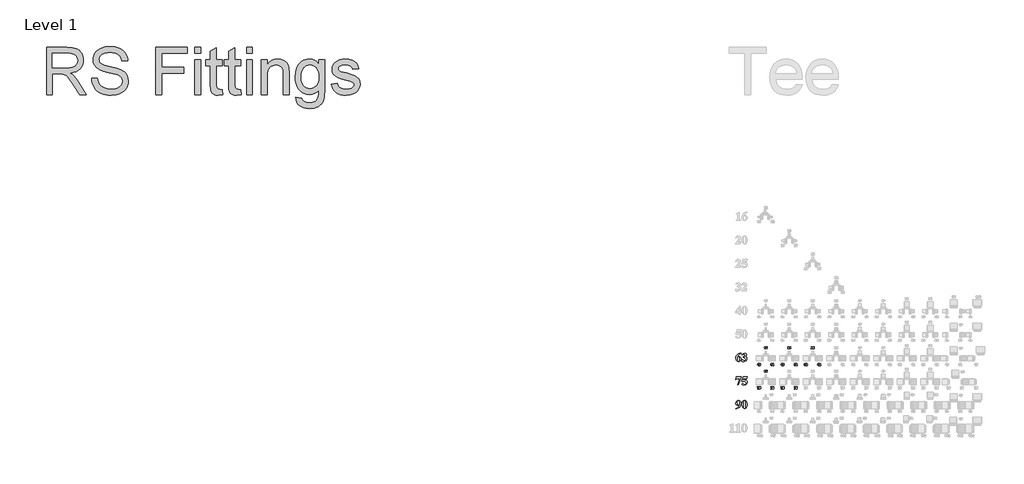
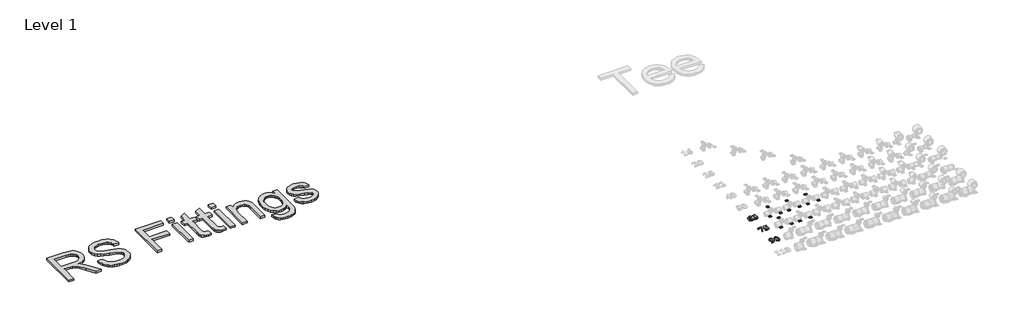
# One storey, part 19 of 57: 18 proxies.
"""IFC4 building model written with IfcOpenShell, lengths in millimetres."""

from ifc_helpers import new_model, si_unit, frame, origin, place, context, project, spatial, polyline, outline, extrude, element, save

model = new_model("IFC4")

# Units and contexts
model_context = context("Model", 3, world=origin())
ifc_project = project(units=[si_unit("LENGTHUNIT", "METRE", prefix="MILLI")], contexts=[model_context])

# Site, building, storey
site = spatial("IfcSite", under=ifc_project)
building = spatial("IfcBuilding", under=site)
storey = spatial("IfcBuildingStorey", under=building, Name="Level 1", Elevation=27.3876384)

# Proxies
placement = place(None, origin())
element("IfcBuildingElementProxy", 1, Name="100mm Arial", ObjectType="100mm Arial", at=placement, inside=storey, context=model_context, shape_type="SweptSolid", body=[
    extrude(outline(polyline([(12951.4898622, 16910.8916255), (12951.4898622, 16909.1466992), (12929.4738, 16900.0676296), (12916.3595883, 16886.5717153), (12908.9027549, 16866.91403), (12914.4647074, 16869.4496261), (12924.4435047, 16870.7583208), (12935.0664251, 16868.7032611), (12943.760384, 16862.5380821), (12949.5574926, 16852.8285215), (12951.4898622, 16840.1403172), (12947.2502366, 16821.8458556), (12935.2266039, 16808.9906565), (12918.5816429, 16804.4511217), (12900.7779418, 16809.6313716), (12888.0181683, 16824.804051), (12883.4377368, 16846.520204), (12885.5405093, 16863.1481247), (12891.8488268, 16878.5150634), (12902.0252915, 16891.7519652), (12915.7325054, 16901.989775), (12932.4081389, 16908.5843694), (12951.4898622, 16910.8916255)]), holes=[polyline([(12907.8667049, 16861.2975485), (12906.1217786, 16846.1112369), (12908.3165687, 16826.0582168), (12914.3283851, 16812.4668768), (12920.7900652, 16809.6859006), (12927.5652869, 16813.7074104), (12930.5507467, 16830.0524621), (12929.2284197, 16847.5698862), (12925.2614389, 16858.6801591), (12916.0733114, 16863.7786156), (12907.8667049, 16861.2975485)])]), frame((0.0, 0.0, 27.3876384), z_axis=(0.0, 0.0, 1.0), x_axis=(1.0, 0.0, 0.0)), (0.0, 0.0, 1.0), 2.0),
    extrude(outline(polyline([(12977.6637566, 16862.0336893), (12977.6637566, 16863.7786156), (12990.0963564, 16868.5907951), (12996.0809083, 16875.379649), (12998.6028721, 16884.6359377), (12993.8997504, 16895.773475), (12982.1896591, 16900.4220677), (12972.1290685, 16897.9887135), (12963.7043462, 16890.6886508), (12961.9594199, 16891.6974363), (12976.3686941, 16906.0794459), (12995.9582182, 16910.8916255), (13006.0085846, 16909.4397923), (13014.1299896, 16905.0842927), (13019.4976828, 16898.7861993), (13021.2869139, 16891.506585), (13017.2790363, 16881.7322713), (13004.7101141, 16873.4575036), (13020.9324757, 16862.1700117), (13025.1243885, 16854.6109365), (13026.5216927, 16845.3478316), (13023.5294168, 16829.585558), (13014.552589, 16816.3793288), (13000.5522819, 16807.4331734), (12982.4895683, 16804.4511217), (12970.8885349, 16805.7325519), (12962.9136765, 16809.5768427), (12958.4695674, 16818.8740281), (12961.0460601, 16825.9491589), (12967.0033475, 16828.8800898), (12971.8564237, 16827.7895108), (12980.7173776, 16821.0551859), (12995.0039616, 16814.9206794), (13004.9282299, 16819.3784208), (13009.0724298, 16830.679545), (13007.0718991, 16840.6890148), (13001.0703069, 16849.8873665), (12991.2176079, 16857.3203435), (12977.6637566, 16862.0336893)])), frame((0.0, 0.0, 27.3876384), z_axis=(0.0, 0.0, 1.0), x_axis=(1.0, 0.0, 0.0)), (0.0, 0.0, 1.0), 2.0),
])
element("IfcBuildingElementProxy", 2, Name="100mm Arial", ObjectType="100mm Arial", at=placement, inside=storey, context=model_context, shape_type="SweptSolid", body=[
    extrude(outline(polyline([(12906.0945141, 16506.196048), (12934.5040953, 16588.2075837), (12912.8561035, 16588.2075837), (12893.7437077, 16584.8540535), (12886.3550354, 16575.9930996), (12883.4377368, 16575.9930996), (12890.935467, 16609.1466992), (12952.7167635, 16609.1466992), (12916.2914271, 16506.196048), (12906.0945141, 16506.196048)])), frame((0.0, 0.0, 27.3876384), z_axis=(0.0, 0.0, 1.0), x_axis=(1.0, 0.0, 0.0)), (0.0, 0.0, 1.0), 2.0),
    extrude(outline(polyline([(12981.1536091, 16609.1466992), (13030.0115453, 16609.1466992), (13023.0318402, 16588.2075837), (12978.7543355, 16588.2075837), (12975.5643921, 16579.4829522), (12999.8570378, 16575.7068227), (13017.8243258, 16566.3414761), (13026.9647404, 16555.0880647), (13030.0115453, 16541.394483), (13024.3132704, 16522.6910543), (13008.5953015, 16509.0042887), (12986.6065038, 16504.4511217), (12966.7852317, 16509.249669), (12961.9594199, 16516.9655149), (12964.4813837, 16522.8410089), (12970.3568777, 16525.3902372), (12976.4913842, 16524.0815425), (12987.1245288, 16517.1836307), (12995.3038708, 16512.4123479), (13000.729501, 16511.4308268), (13011.5807614, 16515.9976261), (13016.052135, 16526.9715766), (13012.6577081, 16539.0088416), (13002.4744273, 16548.5650395), (12987.1177127, 16554.8017878), (12968.2029843, 16556.8807039), (12961.9594199, 16556.7989104), (12981.1536091, 16609.1466992)])), frame((0.0, 0.0, 27.3876384), z_axis=(0.0, 0.0, 1.0), x_axis=(1.0, 0.0, 0.0)), (0.0, 0.0, 1.0), 2.0),
])
element("IfcBuildingElementProxy", 3, Name="100mm Arial", ObjectType="100mm Arial", at=placement, inside=storey, context=model_context, shape_type="SweptSolid", body=[
    extrude(outline(polyline([(12883.4377368, 16204.4511217), (12883.4377368, 16206.196048), (12905.6310181, 16214.8116215), (12920.0675567, 16228.9073542), (12927.5243901, 16248.2378658), (12919.1678291, 16245.3887284), (12911.9018469, 16244.5844264), (12900.7097806, 16246.6394861), (12891.5625498, 16252.8046651), (12885.4689401, 16262.5483062), (12883.4377368, 16275.3387523), (12887.7046269, 16293.524156), (12899.8918464, 16306.3384584), (12916.3459561, 16310.8916255), (12933.6588966, 16305.7659045), (12946.6504182, 16290.9203988), (12951.4898622, 16268.7407497), (12949.5268201, 16252.9614358), (12943.6376939, 16237.8501015), (12933.8599721, 16224.5348143), (12920.2311435, 16214.1436419), (12903.2556008, 16207.2559544), (12883.4377368, 16204.4511217)]), holes=[polyline([(12928.8058204, 16253.9634052), (12928.8058204, 16268.7952787), (12925.3159678, 16294.3420902), (12919.454106, 16303.9937137), (12914.0557403, 16305.6568466), (12907.5940601, 16302.4123743), (12904.3768523, 16285.4538719), (12905.7877888, 16267.834206), (12910.0205983, 16256.6898525), (12919.972131, 16251.5641316), (12928.8058204, 16253.9634052)])]), frame((0.0, 0.0, 27.3876384), z_axis=(0.0, 0.0, 1.0), x_axis=(1.0, 0.0, 0.0)), (0.0, 0.0, 1.0), 2.0),
    extrude(outline(polyline([(13030.0115453, 16257.6713736), (13025.5674362, 16229.0982056), (13018.4514086, 16215.7658781), (13008.3090246, 16207.5047427), (12995.9582182, 16204.4511217), (12982.1760269, 16208.213619), (12971.2838698, 16219.0103504), (12965.3129502, 16232.6425871), (12961.9594199, 16256.4717368), (12966.7852317, 16287.0624758), (12971.7746303, 16297.2491647), (12978.8361289, 16304.7434868), (12995.9582182, 16310.8916255), (13013.0939396, 16304.8252802), (13024.8040309, 16288.5074929), (13030.0115453, 16257.6713736)]), holes=[polyline([(13007.3275035, 16257.6713736), (13006.9730654, 16289.0255179), (13002.8561299, 16303.2303085), (12995.9036892, 16305.6568466), (12990.0690919, 16303.8301269), (12985.7613051, 16294.505677), (12984.6434617, 16247.8561632), (12986.3611236, 16218.6831767), (12990.0554597, 16211.498988), (12996.4217142, 16209.6859006), (13002.8561299, 16212.1124387), (13006.9730654, 16225.1721214), (13007.3275035, 16257.6713736)])]), frame((0.0, 0.0, 27.3876384), z_axis=(0.0, 0.0, 1.0), x_axis=(1.0, 0.0, 0.0)), (0.0, 0.0, 1.0), 2.0),
])
element("IfcBuildingElementProxy", 4, Name="30mm Arial", ObjectType="30mm Arial", at=placement, inside=storey, context=model_context, shape_type="SweptSolid", body=[
    extrude(outline(polyline([(13177.5429, 16775.0640351), (13171.7128463, 16774.4415554), (13170.680441, 16777.0111819), (13168.5093532, 16777.84242), (13165.5184142, 16776.2292867), (13163.9773974, 16769.4541266), (13169.3064309, 16772.0123663), (13175.4667025, 16769.2795286), (13178.0287378, 16762.2272892), (13175.4097684, 16754.8676055), (13168.67636, 16752.0930161), (13161.4343401, 16755.67607), (13158.5952254, 16767.4196808), (13161.5595952, 16779.4897138), (13169.2608836, 16783.1866359), (13174.764515, 16781.1066428), (13177.5429, 16775.0640351)]), holes=[polyline([(13164.4252792, 16762.3563398), (13165.685421, 16758.7163519), (13168.5624918, 16757.437232), (13171.1586876, 16758.4848198), (13172.1986841, 16761.9236405), (13171.0789798, 16765.5256724), (13168.2816168, 16766.6681504), (13165.5449835, 16765.5750153), (13164.4252792, 16762.3563398)])]), frame((0.0, 0.0, 27.3876384), z_axis=(0.0, 0.0, 1.0), x_axis=(1.0, 0.0, 0.0)), (0.0, 0.0, 1.0), 2.0),
    extrude(outline(polyline([(13181.9154403, 16761.1341541), (13187.745494, 16761.8097723), (13189.0587743, 16758.560732), (13191.6473789, 16757.437232), (13194.4029903, 16758.7239431), (13195.518899, 16762.1893331), (13194.4978804, 16765.4611471), (13192.0041661, 16766.6681504), (13189.6888453, 16766.2354511), (13190.1974567, 16771.0406907), (13193.0707319, 16771.9971839), (13194.0613855, 16774.6996567), (13193.321242, 16776.9884083), (13191.3513215, 16777.84242), (13189.275124, 16776.8517664), (13188.2313318, 16773.9557175), (13182.4012781, 16774.8287074), (13184.0068202, 16779.4631446), (13187.0053505, 16782.1921867), (13191.3133654, 16783.1866359), (13197.8569934, 16780.4310246), (13199.8914393, 16775.3297276), (13195.5264902, 16768.8999678), (13199.7623886, 16766.3986622), (13201.3489527, 16761.7034953), (13198.5364072, 16754.9055616), (13191.5335107, 16752.0930161), (13184.948131, 16754.5943217), (13181.9154403, 16761.1341541)])), frame((0.0, 0.0, 27.3876384), z_axis=(0.0, 0.0, 1.0), x_axis=(1.0, 0.0, 0.0)), (0.0, 0.0, 1.0), 2.0),
])
element("IfcBuildingElementProxy", 5, Name="30mm Arial", ObjectType="30mm Arial", at=placement, inside=storey, context=model_context, shape_type="SweptSolid", body=[
    extrude(outline(polyline([(13346.2929, 16775.0640351), (13340.4628463, 16774.4415554), (13339.430441, 16777.0111819), (13337.2593532, 16777.84242), (13334.2684142, 16776.2292867), (13332.7273974, 16769.4541266), (13338.0564309, 16772.0123663), (13344.2167025, 16769.2795286), (13346.7787378, 16762.2272892), (13344.1597684, 16754.8676055), (13337.42636, 16752.0930161), (13330.1843401, 16755.67607), (13327.3452254, 16767.4196808), (13330.3095952, 16779.4897138), (13338.0108836, 16783.1866359), (13343.514515, 16781.1066428), (13346.2929, 16775.0640351)]), holes=[polyline([(13333.1752792, 16762.3563398), (13334.435421, 16758.7163519), (13337.3124918, 16757.437232), (13339.9086876, 16758.4848198), (13340.9486841, 16761.9236405), (13339.8289798, 16765.5256724), (13337.0316168, 16766.6681504), (13334.2949835, 16765.5750153), (13333.1752792, 16762.3563398)])]), frame((0.0, 0.0, 27.3876384), z_axis=(0.0, 0.0, 1.0), x_axis=(1.0, 0.0, 0.0)), (0.0, 0.0, 1.0), 2.0),
    extrude(outline(polyline([(13350.6654403, 16761.1341541), (13356.495494, 16761.8097723), (13357.8087743, 16758.560732), (13360.3973789, 16757.437232), (13363.1529903, 16758.7239431), (13364.268899, 16762.1893331), (13363.2478804, 16765.4611471), (13360.7541661, 16766.6681504), (13358.4388453, 16766.2354511), (13358.9474567, 16771.0406907), (13361.8207319, 16771.9971839), (13362.8113855, 16774.6996567), (13362.071242, 16776.9884083), (13360.1013215, 16777.84242), (13358.025124, 16776.8517664), (13356.9813318, 16773.9557175), (13351.1512781, 16774.8287074), (13352.7568202, 16779.4631446), (13355.7553505, 16782.1921867), (13360.0633654, 16783.1866359), (13366.6069934, 16780.4310246), (13368.6414393, 16775.3297276), (13364.2764902, 16768.8999678), (13368.5123886, 16766.3986622), (13370.0989527, 16761.7034953), (13367.2864072, 16754.9055616), (13360.2835107, 16752.0930161), (13353.698131, 16754.5943217), (13350.6654403, 16761.1341541)])), frame((0.0, 0.0, 27.3876384), z_axis=(0.0, 0.0, 1.0), x_axis=(1.0, 0.0, 0.0)), (0.0, 0.0, 1.0), 2.0),
])
element("IfcBuildingElementProxy", 6, Name="30mm Arial", ObjectType="30mm Arial", at=placement, inside=storey, context=model_context, shape_type="SweptSolid", body=[
    extrude(outline(polyline([(13260.0985445, 16966.3974945), (13254.2684908, 16966.3974945), (13254.2684908, 16988.2753784), (13246.9809237, 16983.4018178), (13246.9809237, 16989.2318715), (13251.846893, 16992.0899643), (13255.4527205, 16997.0052765), (13260.0985445, 16997.0052765), (13260.0985445, 16966.3974945)])), frame((0.0, 0.0, 27.3876384), z_axis=(0.0, 0.0, 1.0), x_axis=(1.0, 0.0, 0.0)), (0.0, 0.0, 1.0), 2.0),
    extrude(outline(polyline([(13287.7912997, 16988.8826756), (13281.961246, 16988.2601959), (13280.9288406, 16990.8298225), (13278.7577529, 16991.6610606), (13275.7668139, 16990.0479272), (13274.2257971, 16983.2727672), (13279.5548306, 16985.8310069), (13285.7151022, 16983.0981692), (13288.2771375, 16976.0459297), (13285.658168, 16968.686246), (13278.9247597, 16965.9116567), (13271.6827398, 16969.4947105), (13268.8436251, 16981.2383213), (13271.8079949, 16993.3083544), (13279.5092833, 16997.0052765), (13285.0129147, 16994.9252834), (13287.7912997, 16988.8826756)]), holes=[polyline([(13274.6736788, 16976.1749804), (13275.9338206, 16972.5349924), (13278.8108914, 16971.2558726), (13281.4070872, 16972.3034604), (13282.4470838, 16975.7422811), (13281.3273794, 16979.344313), (13278.5300164, 16980.486791), (13275.7933831, 16979.3936559), (13274.6736788, 16976.1749804)])]), frame((0.0, 0.0, 27.3876384), z_axis=(0.0, 0.0, 1.0), x_axis=(1.0, 0.0, 0.0)), (0.0, 0.0, 1.0), 2.0),
])
element("IfcBuildingElementProxy", 7, Name="30mm Arial", ObjectType="30mm Arial", at=placement, inside=storey, context=model_context, shape_type="SweptSolid", body=[
    extrude(outline(polyline([(13477.5429, 16775.0640351), (13471.7128463, 16774.4415554), (13470.680441, 16777.0111819), (13468.5093532, 16777.84242), (13465.5184142, 16776.2292867), (13463.9773974, 16769.4541266), (13469.3064309, 16772.0123663), (13475.4667025, 16769.2795286), (13478.0287378, 16762.2272892), (13475.4097684, 16754.8676055), (13468.67636, 16752.0930161), (13461.4343401, 16755.67607), (13458.5952254, 16767.4196808), (13461.5595952, 16779.4897138), (13469.2608836, 16783.1866359), (13474.764515, 16781.1066428), (13477.5429, 16775.0640351)]), holes=[polyline([(13464.4252792, 16762.3563398), (13465.685421, 16758.7163519), (13468.5624918, 16757.437232), (13471.1586876, 16758.4848198), (13472.1986841, 16761.9236405), (13471.0789798, 16765.5256724), (13468.2816168, 16766.6681504), (13465.5449835, 16765.5750153), (13464.4252792, 16762.3563398)])]), frame((0.0, 0.0, 27.3876384), z_axis=(0.0, 0.0, 1.0), x_axis=(1.0, 0.0, 0.0)), (0.0, 0.0, 1.0), 2.0),
    extrude(outline(polyline([(13481.9154403, 16761.1341541), (13487.745494, 16761.8097723), (13489.0587743, 16758.560732), (13491.6473789, 16757.437232), (13494.4029903, 16758.7239431), (13495.518899, 16762.1893331), (13494.4978804, 16765.4611471), (13492.0041661, 16766.6681504), (13489.6888453, 16766.2354511), (13490.1974567, 16771.0406907), (13493.0707319, 16771.9971839), (13494.0613855, 16774.6996567), (13493.321242, 16776.9884083), (13491.3513215, 16777.84242), (13489.275124, 16776.8517664), (13488.2313318, 16773.9557175), (13482.4012781, 16774.8287074), (13484.0068202, 16779.4631446), (13487.0053505, 16782.1921867), (13491.3133654, 16783.1866359), (13497.8569934, 16780.4310246), (13499.8914393, 16775.3297276), (13495.5264902, 16768.8999678), (13499.7623886, 16766.3986622), (13501.3489527, 16761.7034953), (13498.5364072, 16754.9055616), (13491.5335107, 16752.0930161), (13484.948131, 16754.5943217), (13481.9154403, 16761.1341541)])), frame((0.0, 0.0, 27.3876384), z_axis=(0.0, 0.0, 1.0), x_axis=(1.0, 0.0, 0.0)), (0.0, 0.0, 1.0), 2.0),
])
element("IfcBuildingElementProxy", 8, Name="30mm Arial", ObjectType="30mm Arial", at=placement, inside=storey, context=model_context, shape_type="SweptSolid", body=[
    extrude(outline(polyline([(13646.2929, 16775.0640351), (13640.4628463, 16774.4415554), (13639.430441, 16777.0111819), (13637.2593532, 16777.84242), (13634.2684142, 16776.2292867), (13632.7273974, 16769.4541266), (13638.0564309, 16772.0123663), (13644.2167025, 16769.2795286), (13646.7787378, 16762.2272892), (13644.1597684, 16754.8676055), (13637.42636, 16752.0930161), (13630.1843401, 16755.67607), (13627.3452254, 16767.4196808), (13630.3095952, 16779.4897138), (13638.0108836, 16783.1866359), (13643.514515, 16781.1066428), (13646.2929, 16775.0640351)]), holes=[polyline([(13633.1752792, 16762.3563398), (13634.435421, 16758.7163519), (13637.3124918, 16757.437232), (13639.9086876, 16758.4848198), (13640.9486841, 16761.9236405), (13639.8289798, 16765.5256724), (13637.0316168, 16766.6681504), (13634.2949835, 16765.5750153), (13633.1752792, 16762.3563398)])]), frame((0.0, 0.0, 27.3876384), z_axis=(0.0, 0.0, 1.0), x_axis=(1.0, 0.0, 0.0)), (0.0, 0.0, 1.0), 2.0),
    extrude(outline(polyline([(13650.6654403, 16761.1341541), (13656.495494, 16761.8097723), (13657.8087743, 16758.560732), (13660.3973789, 16757.437232), (13663.1529903, 16758.7239431), (13664.268899, 16762.1893331), (13663.2478804, 16765.4611471), (13660.7541661, 16766.6681504), (13658.4388453, 16766.2354511), (13658.9474567, 16771.0406907), (13661.8207319, 16771.9971839), (13662.8113855, 16774.6996567), (13662.071242, 16776.9884083), (13660.1013215, 16777.84242), (13658.025124, 16776.8517664), (13656.9813318, 16773.9557175), (13651.1512781, 16774.8287074), (13652.7568202, 16779.4631446), (13655.7553505, 16782.1921867), (13660.0633654, 16783.1866359), (13666.6069934, 16780.4310246), (13668.6414393, 16775.3297276), (13664.2764902, 16768.8999678), (13668.5123886, 16766.3986622), (13670.0989527, 16761.7034953), (13667.2864072, 16754.9055616), (13660.2835107, 16752.0930161), (13653.698131, 16754.5943217), (13650.6654403, 16761.1341541)])), frame((0.0, 0.0, 27.3876384), z_axis=(0.0, 0.0, 1.0), x_axis=(1.0, 0.0, 0.0)), (0.0, 0.0, 1.0), 2.0),
])
element("IfcBuildingElementProxy", 9, Name="30mm Arial", ObjectType="30mm Arial", at=placement, inside=storey, context=model_context, shape_type="SweptSolid", body=[
    extrude(outline(polyline([(13564.9569226, 16972.2275482), (13564.9569226, 16966.3974945), (13545.5234103, 16966.3974945), (13547.3832581, 16972.1174756), (13553.4941868, 16979.2873789), (13558.003369, 16984.1761218), (13559.1268689, 16987.6832635), (13558.1817626, 16990.6324508), (13555.5741799, 16991.6610606), (13552.9628017, 16990.6476333), (13551.8393018, 16987.2885203), (13546.0092481, 16987.8199054), (13549.136829, 16994.8683493), (13555.7032306, 16997.0052765), (13562.4897775, 16994.6102479), (13564.9569226, 16988.6549391), (13564.2813044, 16984.7986015), (13562.1405816, 16980.9650376), (13558.515776, 16977.1390648), (13555.1870279, 16973.8217035), (13554.0938929, 16972.2275482), (13564.9569226, 16972.2275482)])), frame((0.0, 0.0, 27.3876384), z_axis=(0.0, 0.0, 1.0), x_axis=(1.0, 0.0, 0.0)), (0.0, 0.0, 1.0), 2.0),
    extrude(outline(polyline([(13578.5603813, 16997.0052765), (13585.3545194, 16993.8473307), (13588.2771375, 16981.4508754), (13585.339337, 16969.0240552), (13578.5603813, 16965.9116567), (13571.5195287, 16969.3277038), (13568.8436251, 16981.5116051), (13571.7814256, 16993.892878), (13578.5603813, 16997.0052765)]), holes=[polyline([(13578.5603813, 16991.6610606), (13576.6170301, 16991.0196029), (13575.2961585, 16988.7156689), (13574.6736788, 16981.4508754), (13575.2278376, 16974.4327964), (13576.6284169, 16971.8897391), (13578.5603813, 16971.2558726), (13580.5037325, 16971.8973303), (13581.8246041, 16974.2012643), (13582.4470838, 16981.4508754), (13581.892925, 16988.4651587), (13580.4923457, 16991.0196029), (13578.5603813, 16991.6610606)])]), frame((0.0, 0.0, 27.3876384), z_axis=(0.0, 0.0, 1.0), x_axis=(1.0, 0.0, 0.0)), (0.0, 0.0, 1.0), 2.0),
])
element("IfcBuildingElementProxy", 10, Name="30mm Arial", ObjectType="30mm Arial", at=placement, inside=storey, context=model_context, shape_type="SweptSolid", body=[
    extrude(outline(polyline([(13775.5429, 16775.0640351), (13769.7128463, 16774.4415554), (13768.680441, 16777.0111819), (13766.5093532, 16777.84242), (13763.5184142, 16776.2292867), (13761.9773974, 16769.4541266), (13767.3064309, 16772.0123663), (13773.4667025, 16769.2795286), (13776.0287378, 16762.2272892), (13773.4097684, 16754.8676055), (13766.67636, 16752.0930161), (13759.4343401, 16755.67607), (13756.5952254, 16767.4196808), (13759.5595952, 16779.4897138), (13767.2608836, 16783.1866359), (13772.764515, 16781.1066428), (13775.5429, 16775.0640351)]), holes=[polyline([(13762.4252792, 16762.3563398), (13763.685421, 16758.7163519), (13766.5624918, 16757.437232), (13769.1586876, 16758.4848198), (13770.1986841, 16761.9236405), (13769.0789798, 16765.5256724), (13766.2816168, 16766.6681504), (13763.5449835, 16765.5750153), (13762.4252792, 16762.3563398)])]), frame((0.0, 0.0, 27.3876384), z_axis=(0.0, 0.0, 1.0), x_axis=(1.0, 0.0, 0.0)), (0.0, 0.0, 1.0), 2.0),
    extrude(outline(polyline([(13779.9154403, 16761.1341541), (13785.745494, 16761.8097723), (13787.0587743, 16758.560732), (13789.6473789, 16757.437232), (13792.4029903, 16758.7239431), (13793.518899, 16762.1893331), (13792.4978804, 16765.4611471), (13790.0041661, 16766.6681504), (13787.6888453, 16766.2354511), (13788.1974567, 16771.0406907), (13791.0707319, 16771.9971839), (13792.0613855, 16774.6996567), (13791.321242, 16776.9884083), (13789.3513215, 16777.84242), (13787.275124, 16776.8517664), (13786.2313318, 16773.9557175), (13780.4012781, 16774.8287074), (13782.0068202, 16779.4631446), (13785.0053505, 16782.1921867), (13789.3133654, 16783.1866359), (13795.8569934, 16780.4310246), (13797.8914393, 16775.3297276), (13793.5264902, 16768.8999678), (13797.7623886, 16766.3986622), (13799.3489527, 16761.7034953), (13796.5364072, 16754.9055616), (13789.5335107, 16752.0930161), (13782.948131, 16754.5943217), (13779.9154403, 16761.1341541)])), frame((0.0, 0.0, 27.3876384), z_axis=(0.0, 0.0, 1.0), x_axis=(1.0, 0.0, 0.0)), (0.0, 0.0, 1.0), 2.0),
])
element("IfcBuildingElementProxy", 11, Name="30mm Arial", ObjectType="30mm Arial", at=placement, inside=storey, context=model_context, shape_type="SweptSolid", body=[
    extrude(outline(polyline([(13944.2929, 16775.0640351), (13938.4628463, 16774.4415554), (13937.430441, 16777.0111819), (13935.2593532, 16777.84242), (13932.2684142, 16776.2292867), (13930.7273974, 16769.4541266), (13936.0564309, 16772.0123663), (13942.2167025, 16769.2795286), (13944.7787378, 16762.2272892), (13942.1597684, 16754.8676055), (13935.42636, 16752.0930161), (13928.1843401, 16755.67607), (13925.3452254, 16767.4196808), (13928.3095952, 16779.4897138), (13936.0108836, 16783.1866359), (13941.514515, 16781.1066428), (13944.2929, 16775.0640351)]), holes=[polyline([(13931.1752792, 16762.3563398), (13932.435421, 16758.7163519), (13935.3124918, 16757.437232), (13937.9086876, 16758.4848198), (13938.9486841, 16761.9236405), (13937.8289798, 16765.5256724), (13935.0316168, 16766.6681504), (13932.2949835, 16765.5750153), (13931.1752792, 16762.3563398)])]), frame((0.0, 0.0, 27.3876384), z_axis=(0.0, 0.0, 1.0), x_axis=(1.0, 0.0, 0.0)), (0.0, 0.0, 1.0), 2.0),
    extrude(outline(polyline([(13948.6654403, 16761.1341541), (13954.495494, 16761.8097723), (13955.8087743, 16758.560732), (13958.3973789, 16757.437232), (13961.1529903, 16758.7239431), (13962.268899, 16762.1893331), (13961.2478804, 16765.4611471), (13958.7541661, 16766.6681504), (13956.4388453, 16766.2354511), (13956.9474567, 16771.0406907), (13959.8207319, 16771.9971839), (13960.8113855, 16774.6996567), (13960.071242, 16776.9884083), (13958.1013215, 16777.84242), (13956.025124, 16776.8517664), (13954.9813318, 16773.9557175), (13949.1512781, 16774.8287074), (13950.7568202, 16779.4631446), (13953.7553505, 16782.1921867), (13958.0633654, 16783.1866359), (13964.6069934, 16780.4310246), (13966.6414393, 16775.3297276), (13962.2764902, 16768.8999678), (13966.5123886, 16766.3986622), (13968.0989527, 16761.7034953), (13965.2864072, 16754.9055616), (13958.2835107, 16752.0930161), (13951.698131, 16754.5943217), (13948.6654403, 16761.1341541)])), frame((0.0, 0.0, 27.3876384), z_axis=(0.0, 0.0, 1.0), x_axis=(1.0, 0.0, 0.0)), (0.0, 0.0, 1.0), 2.0),
])
element("IfcBuildingElementProxy", 12, Name="30mm Arial", ObjectType="30mm Arial", at=placement, inside=storey, context=model_context, shape_type="SweptSolid", body=[
    extrude(outline(polyline([(13862.9569226, 16972.2275482), (13862.9569226, 16966.3974945), (13843.5234103, 16966.3974945), (13845.3832581, 16972.1174756), (13851.4941868, 16979.2873789), (13856.003369, 16984.1761218), (13857.1268689, 16987.6832635), (13856.1817626, 16990.6324508), (13853.5741799, 16991.6610606), (13850.9628017, 16990.6476333), (13849.8393018, 16987.2885203), (13844.0092481, 16987.8199054), (13847.136829, 16994.8683493), (13853.7032306, 16997.0052765), (13860.4897775, 16994.6102479), (13862.9569226, 16988.6549391), (13862.2813044, 16984.7986015), (13860.1405816, 16980.9650376), (13856.515776, 16977.1390648), (13853.1870279, 16973.8217035), (13852.0938929, 16972.2275482), (13862.9569226, 16972.2275482)])), frame((0.0, 0.0, 27.3876384), z_axis=(0.0, 0.0, 1.0), x_axis=(1.0, 0.0, 0.0)), (0.0, 0.0, 1.0), 2.0),
    extrude(outline(polyline([(13866.8436251, 16975.0135244), (13872.187841, 16975.6284129), (13873.6757193, 16972.432511), (13876.5300164, 16971.2558726), (13879.6538017, 16972.5046276), (13880.9329216, 16976.266075), (13879.7448963, 16979.7959903), (13876.6514759, 16980.9726288), (13872.3852126, 16978.5434397), (13867.3294629, 16979.2949701), (13870.7303276, 16996.5194387), (13885.3054619, 16996.5194387), (13885.3054619, 16990.689385), (13875.4444726, 16990.689385), (13874.2678341, 16985.1250238), (13878.0254859, 16986.3168447), (13884.219918, 16983.5574377), (13886.7629753, 16976.3951257), (13884.6450261, 16969.8439065), (13876.621111, 16965.9116567), (13869.9370455, 16968.3788018), (13866.8436251, 16975.0135244)])), frame((0.0, 0.0, 27.3876384), z_axis=(0.0, 0.0, 1.0), x_axis=(1.0, 0.0, 0.0)), (0.0, 0.0, 1.0), 2.0),
])
element("IfcBuildingElementProxy", 13, Name="30mm Arial", ObjectType="30mm Arial", at=placement, inside=storey, context=model_context, shape_type="SweptSolid", body=[
    extrude(outline(polyline([(13158.5952254, 16476.8707444), (13158.5952254, 16482.7007981), (13178.0287378, 16482.7007981), (13178.0287378, 16478.3282578), (13173.022331, 16471.3595218), (13169.1394242, 16461.7110865), (13167.8261438, 16452.5788539), (13161.9960901, 16452.5788539), (13164.6568112, 16465.2903447), (13171.3636504, 16476.8707444), (13158.5952254, 16476.8707444)])), frame((0.0, 0.0, 27.3876384), z_axis=(0.0, 0.0, 1.0), x_axis=(1.0, 0.0, 0.0)), (0.0, 0.0, 1.0), 2.0),
    extrude(outline(polyline([(13181.9154403, 16461.1948838), (13187.2596562, 16461.8097723), (13188.7475345, 16458.6138705), (13191.6018316, 16457.437232), (13194.7256169, 16458.685987), (13196.0047368, 16462.4474344), (13194.8167115, 16465.9773498), (13191.7232911, 16467.1539882), (13187.4570278, 16464.7247992), (13182.4012781, 16465.4763295), (13185.8021428, 16482.7007981), (13200.3772771, 16482.7007981), (13200.3772771, 16476.8707444), (13190.5162878, 16476.8707444), (13189.3396493, 16471.3063832), (13193.0973011, 16472.4982041), (13199.2917332, 16469.7387972), (13201.8347905, 16462.5764851), (13199.7168413, 16456.0252659), (13191.6929262, 16452.0930161), (13185.0088607, 16454.5601612), (13181.9154403, 16461.1948838)])), frame((0.0, 0.0, 27.3876384), z_axis=(0.0, 0.0, 1.0), x_axis=(1.0, 0.0, 0.0)), (0.0, 0.0, 1.0), 2.0),
])
element("IfcBuildingElementProxy", 14, Name="30mm Arial", ObjectType="30mm Arial", at=placement, inside=storey, context=model_context, shape_type="SweptSolid", body=[
    extrude(outline(polyline([(13327.3452254, 16476.8707444), (13327.3452254, 16482.7007981), (13346.7787378, 16482.7007981), (13346.7787378, 16478.3282578), (13341.772331, 16471.3595218), (13337.8894242, 16461.7110865), (13336.5761438, 16452.5788539), (13330.7460901, 16452.5788539), (13333.4068112, 16465.2903447), (13340.1136504, 16476.8707444), (13327.3452254, 16476.8707444)])), frame((0.0, 0.0, 27.3876384), z_axis=(0.0, 0.0, 1.0), x_axis=(1.0, 0.0, 0.0)), (0.0, 0.0, 1.0), 2.0),
    extrude(outline(polyline([(13350.6654403, 16461.1948838), (13356.0096562, 16461.8097723), (13357.4975345, 16458.6138705), (13360.3518316, 16457.437232), (13363.4756169, 16458.685987), (13364.7547368, 16462.4474344), (13363.5667115, 16465.9773498), (13360.4732911, 16467.1539882), (13356.2070278, 16464.7247992), (13351.1512781, 16465.4763295), (13354.5521428, 16482.7007981), (13369.1272771, 16482.7007981), (13369.1272771, 16476.8707444), (13359.2662878, 16476.8707444), (13358.0896493, 16471.3063832), (13361.8473011, 16472.4982041), (13368.0417332, 16469.7387972), (13370.5847905, 16462.5764851), (13368.4668413, 16456.0252659), (13360.4429262, 16452.0930161), (13353.7588607, 16454.5601612), (13350.6654403, 16461.1948838)])), frame((0.0, 0.0, 27.3876384), z_axis=(0.0, 0.0, 1.0), x_axis=(1.0, 0.0, 0.0)), (0.0, 0.0, 1.0), 2.0),
])
element("IfcBuildingElementProxy", 15, Name="30mm Arial", ObjectType="30mm Arial", at=placement, inside=storey, context=model_context, shape_type="SweptSolid", body=[
    extrude(outline(polyline([(13260.0985445, 16666.3974945), (13254.2684908, 16666.3974945), (13254.2684908, 16688.2753784), (13246.9809237, 16683.4018178), (13246.9809237, 16689.2318715), (13251.846893, 16692.0899643), (13255.4527205, 16697.0052765), (13260.0985445, 16697.0052765), (13260.0985445, 16666.3974945)])), frame((0.0, 0.0, 27.3876384), z_axis=(0.0, 0.0, 1.0), x_axis=(1.0, 0.0, 0.0)), (0.0, 0.0, 1.0), 2.0),
    extrude(outline(polyline([(13287.7912997, 16688.8826756), (13281.961246, 16688.2601959), (13280.9288406, 16690.8298225), (13278.7577529, 16691.6610606), (13275.7668139, 16690.0479272), (13274.2257971, 16683.2727672), (13279.5548306, 16685.8310069), (13285.7151022, 16683.0981692), (13288.2771375, 16676.0459297), (13285.658168, 16668.686246), (13278.9247597, 16665.9116567), (13271.6827398, 16669.4947105), (13268.8436251, 16681.2383213), (13271.8079949, 16693.3083544), (13279.5092833, 16697.0052765), (13285.0129147, 16694.9252834), (13287.7912997, 16688.8826756)]), holes=[polyline([(13274.6736788, 16676.1749804), (13275.9338206, 16672.5349924), (13278.8108914, 16671.2558726), (13281.4070872, 16672.3034604), (13282.4470838, 16675.7422811), (13281.3273794, 16679.344313), (13278.5300164, 16680.486791), (13275.7933831, 16679.3936559), (13274.6736788, 16676.1749804)])]), frame((0.0, 0.0, 27.3876384), z_axis=(0.0, 0.0, 1.0), x_axis=(1.0, 0.0, 0.0)), (0.0, 0.0, 1.0), 2.0),
])
element("IfcBuildingElementProxy", 16, Name="30mm Arial", ObjectType="30mm Arial", at=placement, inside=storey, context=model_context, shape_type="SweptSolid", body=[
    extrude(outline(polyline([(13458.5952254, 16476.8707444), (13458.5952254, 16482.7007981), (13478.0287378, 16482.7007981), (13478.0287378, 16478.3282578), (13473.022331, 16471.3595218), (13469.1394242, 16461.7110865), (13467.8261438, 16452.5788539), (13461.9960901, 16452.5788539), (13464.6568112, 16465.2903447), (13471.3636504, 16476.8707444), (13458.5952254, 16476.8707444)])), frame((0.0, 0.0, 27.3876384), z_axis=(0.0, 0.0, 1.0), x_axis=(1.0, 0.0, 0.0)), (0.0, 0.0, 1.0), 2.0),
    extrude(outline(polyline([(13481.9154403, 16461.1948838), (13487.2596562, 16461.8097723), (13488.7475345, 16458.6138705), (13491.6018316, 16457.437232), (13494.7256169, 16458.685987), (13496.0047368, 16462.4474344), (13494.8167115, 16465.9773498), (13491.7232911, 16467.1539882), (13487.4570278, 16464.7247992), (13482.4012781, 16465.4763295), (13485.8021428, 16482.7007981), (13500.3772771, 16482.7007981), (13500.3772771, 16476.8707444), (13490.5162878, 16476.8707444), (13489.3396493, 16471.3063832), (13493.0973011, 16472.4982041), (13499.2917332, 16469.7387972), (13501.8347905, 16462.5764851), (13499.7168413, 16456.0252659), (13491.6929262, 16452.0930161), (13485.0088607, 16454.5601612), (13481.9154403, 16461.1948838)])), frame((0.0, 0.0, 27.3876384), z_axis=(0.0, 0.0, 1.0), x_axis=(1.0, 0.0, 0.0)), (0.0, 0.0, 1.0), 2.0),
])
element("IfcBuildingElementProxy", 17, Name="30mm Arial", ObjectType="30mm Arial", at=placement, inside=storey, context=model_context, shape_type="SweptSolid", body=[
    extrude(outline(polyline([(13627.3452254, 16476.8707444), (13627.3452254, 16482.7007981), (13646.7787378, 16482.7007981), (13646.7787378, 16478.3282578), (13641.772331, 16471.3595218), (13637.8894242, 16461.7110865), (13636.5761438, 16452.5788539), (13630.7460901, 16452.5788539), (13633.4068112, 16465.2903447), (13640.1136504, 16476.8707444), (13627.3452254, 16476.8707444)])), frame((0.0, 0.0, 27.3876384), z_axis=(0.0, 0.0, 1.0), x_axis=(1.0, 0.0, 0.0)), (0.0, 0.0, 1.0), 2.0),
    extrude(outline(polyline([(13650.6654403, 16461.1948838), (13656.0096562, 16461.8097723), (13657.4975345, 16458.6138705), (13660.3518316, 16457.437232), (13663.4756169, 16458.685987), (13664.7547368, 16462.4474344), (13663.5667115, 16465.9773498), (13660.4732911, 16467.1539882), (13656.2070278, 16464.7247992), (13651.1512781, 16465.4763295), (13654.5521428, 16482.7007981), (13669.1272771, 16482.7007981), (13669.1272771, 16476.8707444), (13659.2662878, 16476.8707444), (13658.0896493, 16471.3063832), (13661.8473011, 16472.4982041), (13668.0417332, 16469.7387972), (13670.5847905, 16462.5764851), (13668.4668413, 16456.0252659), (13660.4429262, 16452.0930161), (13653.7588607, 16454.5601612), (13650.6654403, 16461.1948838)])), frame((0.0, 0.0, 27.3876384), z_axis=(0.0, 0.0, 1.0), x_axis=(1.0, 0.0, 0.0)), (0.0, 0.0, 1.0), 2.0),
])
element("IfcBuildingElementProxy", 18, Name="600mm Arial", ObjectType="600mm Arial", at=placement, inside=storey, context=model_context, shape_type="SweptSolid", body=[
    extrude(outline(polyline([(4086.7427908, 20213.7679008), (4086.7427908, 20816.5057617), (4346.4674794, 20816.5057617), (4416.273088, 20812.4406657), (4467.0591974, 20800.2453775), (4486.6581107, 20790.5516869), (4504.1784907, 20777.7309994), (4519.6203375, 20761.7833149), (4532.9836509, 20742.7086335), (4543.7671919, 20721.5324261), (4551.4697212, 20699.2801639), (4556.0912388, 20675.9518469), (4557.6317446, 20651.5474751), (4555.0795633, 20620.5902052), (4547.4230192, 20592.171321), (4534.6621125, 20566.2908227), (4516.7968431, 20542.9487101), (4493.5972848, 20522.8899443), (4464.8335113, 20506.8594864), (4430.5055227, 20494.8573363), (4390.6133188, 20486.883494), (4415.4453535, 20470.659898), (4433.434783, 20454.6570312), (4464.3000824, 20418.0527727), (4494.5031942, 20377.1075067), (4595.0085553, 20213.7679008), (4507.4526405, 20213.7679008), (4429.0201991, 20338.7006264), (4372.3663718, 20421.4004989), (4351.3051276, 20445.5151637), (4332.56154, 20460.4695668), (4296.7298336, 20474.8169646), (4253.0254526, 20477.4657149), (4162.0850234, 20477.4657149), (4162.0850234, 20213.7679008), (4086.7427908, 20213.7679008)]), holes=[polyline([(4162.0850234, 20552.8079476), (4330.72213, 20552.8079476), (4379.1537947, 20555.475092), (4416.7329405, 20563.4765254), (4445.0230659, 20577.3456766), (4465.5876694, 20597.6159746), (4478.1140514, 20622.1353096), (4482.289512, 20648.7515719), (4480.2983507, 20668.0193914), (4474.3248668, 20685.5029832), (4464.3690603, 20701.2023474), (4450.4309312, 20715.1174838), (4432.1885828, 20726.5126286), (4409.3201183, 20734.6520178), (4381.8255376, 20739.5356513), (4349.7048409, 20741.1635291), (4162.0850234, 20741.1635291), (4162.0850234, 20552.8079476)])]), frame((0.0, 0.0, 27.3876384), z_axis=(0.0, 0.0, 1.0), x_axis=(1.0, 0.0, 0.0)), (0.0, 0.0, 1.0), 30.0),
    extrude(outline(polyline([(4661.2273145, 20420.9590405), (4736.5695471, 20420.9590405), (4745.214774, 20379.1492517), (4760.8497587, 20345.5432315), (4785.240335, 20318.8717868), (4820.1523364, 20297.8657249), (4862.8266478, 20284.235697), (4910.5041544, 20279.6923543), (4952.47949, 20283.132051), (4989.2309014, 20293.451141), (5019.0109489, 20309.7851015), (5040.0721931, 20331.2694101), (5052.598575, 20355.9358978), (5056.7740357, 20381.8163962), (5053.6470387, 20407.034707), (5044.2660478, 20428.8317152), (5025.2097605, 20447.42815), (4993.0568741, 20463.0447407), (4883.3544631, 20491.8131128), (4811.3415626, 20510.851006), (4765.2643427, 20528.9691943), (4727.7587733, 20554.3162637), (4701.1792991, 20585.0344103), (4685.3419792, 20620.4614465), (4680.0628726, 20659.9351846), (4681.695349, 20682.3713877), (4686.592778, 20704.0626299), (4694.7551598, 20725.008911), (4706.1824943, 20745.210231), (4720.7460227, 20763.8434541), (4738.3169865, 20780.0854442), (4758.8953856, 20793.9362013), (4782.4812201, 20805.3957254), (4835.4930156, 20820.7915869), (4894.1701938, 20825.9235408), (4957.7402026, 20820.5524636), (5013.3639602, 20804.4392323), (5037.6993542, 20792.4370822), (5059.054904, 20777.9149404), (5077.4306097, 20760.872807), (5092.8264712, 20741.3106819), (5105.1229269, 20719.7987822), (5114.2004151, 20696.9073251), (5120.0589359, 20672.6363104), (5122.6984892, 20646.9857383), (5047.3562566, 20646.9857383), (5042.3162733, 20671.0268267), (5033.5238936, 20691.9409181), (5020.9791175, 20709.7280126), (5004.6819452, 20724.3881101), (4984.3288738, 20735.8476343), (4959.6164007, 20744.0330087), (4930.5445261, 20748.9442333), (4897.1132498, 20750.5813082), (4862.6151157, 20748.9626274), (4833.1385708, 20744.1065851), (4808.6836152, 20736.0131812), (4789.2502488, 20724.6824157), (4774.4429985, 20711.0615848), (4763.8663911, 20696.0979847), (4757.5204267, 20679.7916152), (4755.4051052, 20662.1424765), (4756.9042243, 20646.9581472), (4761.4015817, 20633.1901635), (4768.8971774, 20620.8385255), (4779.3910113, 20609.9032332), (4795.9089129, 20599.547355), (4821.9181699, 20589.0811123), (4902.4107505, 20567.817533), (4985.478505, 20547.6208114), (5035.7311855, 20529.9992639), (5078.6814085, 20502.6656316), (5095.286682, 20486.5983855), (5108.645397, 20468.9308527), (5118.9139032, 20449.7550037), (5126.2485505, 20429.162809), (5132.1162683, 20383.7293826), (5130.4286096, 20360.1619423), (5125.3656337, 20337.2842807), (5116.9273404, 20315.0963979), (5105.1137298, 20293.5982938), (5090.1317356, 20273.6223014), (5072.1882913, 20256.0007539), (5051.2833969, 20240.7336511), (5027.4170525, 20227.820993), (5001.2836352, 20217.5524868), (4973.5775225, 20210.2178396), (4913.4472103, 20204.3501217), (4874.9069728, 20205.9320143), (4839.631688, 20210.677692), (4807.6213559, 20218.5871549), (4778.8759765, 20229.660403), (4753.2208059, 20243.9158303), (4730.4811, 20261.371831), (4710.656859, 20282.028405), (4693.7480828, 20305.8855524), (4680.127252, 20332.170721), (4670.1668469, 20360.1113585), (4663.8668678, 20389.707465), (4661.2273145, 20420.9590405)])), frame((0.0, 0.0, 27.3876384), z_axis=(0.0, 0.0, 1.0), x_axis=(1.0, 0.0, 0.0)), (0.0, 0.0, 1.0), 30.0),
    extrude(outline(polyline([(5480.5740941, 20213.7679008), (5480.5740941, 20816.5057617), (5885.5385944, 20816.5057617), (5885.5385944, 20741.1635291), (5555.9163267, 20741.1635291), (5555.9163267, 20562.2257266), (5838.449699, 20562.2257266), (5838.449699, 20486.883494), (5555.9163267, 20486.883494), (5555.9163267, 20213.7679008), (5480.5740941, 20213.7679008)])), frame((0.0, 0.0, 27.3876384), z_axis=(0.0, 0.0, 1.0), x_axis=(1.0, 0.0, 0.0)), (0.0, 0.0, 1.0), 30.0),
    extrude(outline(polyline([(5979.7163852, 20741.1635291), (5979.7163852, 20816.5057617), (6055.0586178, 20816.5057617), (6055.0586178, 20741.1635291), (5979.7163852, 20741.1635291)])), frame((0.0, 0.0, 27.3876384), z_axis=(0.0, 0.0, 1.0), x_axis=(1.0, 0.0, 0.0)), (0.0, 0.0, 1.0), 30.0),
    extrude(outline(polyline([(5979.7163852, 20213.7679008), (5979.7163852, 20656.4035174), (6055.0586178, 20656.4035174), (6055.0586178, 20213.7679008), (5979.7163852, 20213.7679008)])), frame((0.0, 0.0, 27.3876384), z_axis=(0.0, 0.0, 1.0), x_axis=(1.0, 0.0, 0.0)), (0.0, 0.0, 1.0), 30.0),
    extrude(outline(polyline([(6328.174211, 20276.6021456), (6337.5919901, 20211.5606088), (6281.2324684, 20204.3501217), (6245.0696683, 20207.4771187), (6218.103918, 20216.8581096), (6199.0476307, 20231.315872), (6186.6132193, 20249.6731835), (6179.7706141, 20281.2006705), (6177.4897458, 20335.1689592), (6177.4897458, 20581.0612848), (6120.9830713, 20581.0612848), (6120.9830713, 20656.4035174), (6177.4897458, 20656.4035174), (6177.4897458, 20763.9722128), (6252.8319784, 20808.265205), (6252.8319784, 20656.4035174), (6328.174211, 20656.4035174), (6328.174211, 20581.0612848), (6252.8319784, 20581.0612848), (6252.8319784, 20337.3762512), (6256.8051039, 20298.5279125), (6269.6809738, 20284.7691259), (6280.5518867, 20280.9615472), (6295.359137, 20279.6923543), (6328.174211, 20276.6021456)])), frame((0.0, 0.0, 27.3876384), z_axis=(0.0, 0.0, 1.0), x_axis=(1.0, 0.0, 0.0)), (0.0, 0.0, 1.0), 30.0),
    extrude(outline(polyline([(6563.6186879, 20276.6021456), (6573.036467, 20211.5606088), (6516.6769453, 20204.3501217), (6480.5141452, 20207.4771187), (6453.548395, 20216.8581096), (6434.4921076, 20231.315872), (6422.0576962, 20249.6731835), (6415.2150911, 20281.2006705), (6412.9342227, 20335.1689592), (6412.9342227, 20581.0612848), (6356.4275482, 20581.0612848), (6356.4275482, 20656.4035174), (6412.9342227, 20656.4035174), (6412.9342227, 20763.9722128), (6488.2764553, 20808.265205), (6488.2764553, 20656.4035174), (6563.6186879, 20656.4035174), (6563.6186879, 20581.0612848), (6488.2764553, 20581.0612848), (6488.2764553, 20337.3762512), (6492.2495808, 20298.5279125), (6505.1254507, 20284.7691259), (6515.9963636, 20280.9615472), (6530.8036139, 20279.6923543), (6563.6186879, 20276.6021456)])), frame((0.0, 0.0, 27.3876384), z_axis=(0.0, 0.0, 1.0), x_axis=(1.0, 0.0, 0.0)), (0.0, 0.0, 1.0), 30.0),
    extrude(outline(polyline([(6638.9609205, 20741.1635291), (6638.9609205, 20816.5057617), (6714.3031531, 20816.5057617), (6714.3031531, 20741.1635291), (6638.9609205, 20741.1635291)])), frame((0.0, 0.0, 27.3876384), z_axis=(0.0, 0.0, 1.0), x_axis=(1.0, 0.0, 0.0)), (0.0, 0.0, 1.0), 30.0),
    extrude(outline(polyline([(6638.9609205, 20213.7679008), (6638.9609205, 20656.4035174), (6714.3031531, 20656.4035174), (6714.3031531, 20213.7679008), (6638.9609205, 20213.7679008)])), frame((0.0, 0.0, 27.3876384), z_axis=(0.0, 0.0, 1.0), x_axis=(1.0, 0.0, 0.0)), (0.0, 0.0, 1.0), 30.0),
    extrude(outline(polyline([(6827.3165021, 20213.7679008), (6827.3165021, 20656.4035174), (6902.6587347, 20656.4035174), (6902.6587347, 20594.5993422), (6928.8335386, 20625.7589472), (6960.2690551, 20648.0158079), (6996.9652841, 20661.3699243), (7038.9222257, 20665.8212965), (7076.0599131, 20662.234447), (7110.0706035, 20651.4738987), (7138.4343054, 20634.8824207), (7158.6310269, 20613.8027824), (7172.3346312, 20588.290166), (7181.2189814, 20558.3997539), (7185.192107, 20485.5591188), (7185.192107, 20213.7679008), (7109.8498744, 20213.7679008), (7109.8498744, 20475.4055758), (7107.6793706, 20514.3642791), (7101.1678593, 20542.0657933), (7089.1565121, 20561.9130269), (7070.4865009, 20577.3088884), (7046.5557771, 20587.18652), (7018.7622923, 20590.4790639), (6995.8846308, 20588.6304568), (6974.634847, 20583.0846358), (6955.0129411, 20573.8416006), (6937.018913, 20560.9013515), (6921.986335, 20542.7923602), (6911.2487793, 20518.043099), (6904.8062458, 20486.6535678), (6902.6587347, 20448.6237665), (6902.6587347, 20213.7679008), (6827.3165021, 20213.7679008)])), frame((0.0, 0.0, 27.3876384), z_axis=(0.0, 0.0, 1.0), x_axis=(1.0, 0.0, 0.0)), (0.0, 0.0, 1.0), 30.0),
    extrude(outline(polyline([(7269.9521187, 20176.0967845), (7345.2943513, 20166.6790054), (7353.6084844, 20143.1345577), (7369.7217157, 20126.9477499), (7401.3963555, 20114.3661857), (7442.8566564, 20110.172331), (7487.0760722, 20114.9180087), (7504.9367431, 20120.8501059), (7519.9647226, 20129.1550419), (7542.7734063, 20151.9637256), (7556.7529221, 20182.4243548), (7560.8364122, 20214.8347586), (7561.90327, 20270.2745753), (7536.8321121, 20245.5529052), (7508.8546863, 20227.8945694), (7477.9709928, 20217.299568), (7444.1810316, 20213.7679008), (7402.872482, 20217.8789821), (7366.5027483, 20230.212226), (7335.0718303, 20250.7676325), (7308.5797281, 20279.5452015), (7287.5598706, 20314.0709268), (7272.5456867, 20351.8708018), (7263.5371764, 20392.9448266), (7260.5343396, 20437.2930011), (7265.9238108, 20498.122289), (7282.0922245, 20554.0587463), (7294.0759805, 20579.2816556), (7308.4693635, 20601.4603414), (7325.2723737, 20620.5948037), (7344.4850109, 20636.6850425), (7365.799174, 20649.4321536), (7388.9067618, 20658.537233), (7413.8077743, 20664.0002806), (7440.5022116, 20665.8212965), (7475.7361097, 20661.7010181), (7507.7142521, 20649.3401831), (7536.4366389, 20628.7387914), (7561.90327, 20599.8968429), (7561.90327, 20656.4035174), (7637.2455026, 20656.4035174), (7637.2455026, 20274.2477008), (7632.0951547, 20186.0112043), (7625.6572198, 20153.1915318), (7616.6441109, 20127.9042431), (7604.8396974, 20107.509785), (7590.0278486, 20089.3686041), (7572.2085644, 20073.4807005), (7551.381845, 20059.846074), (7527.7592223, 20048.9015847), (7501.5522287, 20041.0840923), (7472.7608641, 20036.3935968), (7441.3851284, 20034.8300984), (7404.4727687, 20037.0327918), (7371.2852142, 20043.6408721), (7341.8224649, 20054.6543394), (7316.0845208, 20070.0731935), (7295.2945896, 20089.9158286), (7280.6758788, 20114.2006388), (7272.2283885, 20142.9276241), (7269.9521187, 20176.0967845)]), holes=[polyline([(7335.8765722, 20442.443349), (7337.8861276, 20405.1906985), (7343.9147938, 20373.3367162), (7353.9625708, 20346.8814022), (7368.0294586, 20325.8247565), (7385.1313728, 20309.7621089), (7404.2842292, 20298.2887892), (7425.4880277, 20291.4047974), (7448.7427683, 20289.1101334), (7471.7675827, 20291.3910018), (7492.8702136, 20298.2336069), (7512.0506612, 20309.6379487), (7529.3089253, 20325.6040273), (7543.5689511, 20346.4537394), (7553.7546838, 20372.5089817), (7559.8661235, 20403.7697543), (7561.90327, 20440.236057), (7559.8063427, 20475.1802481), (7553.5155605, 20505.5535053), (7543.0309237, 20531.3558287), (7528.3524321, 20552.5872184), (7510.7216874, 20569.1649008), (7491.3802915, 20581.0061025), (7470.3282444, 20588.1108235), (7447.5655459, 20590.4790639), (7425.184525, 20588.1476117), (7404.5417466, 20581.1532553), (7385.6372106, 20569.4959946), (7368.470917, 20553.1758296), (7354.2108911, 20532.2663367), (7344.0251584, 20506.8410923), (7337.9137187, 20476.9000964), (7335.8765722, 20442.443349)])]), frame((0.0, 0.0, 27.3876384), z_axis=(0.0, 0.0, 1.0), x_axis=(1.0, 0.0, 0.0)), (0.0, 0.0, 1.0), 30.0),
    extrude(outline(polyline([(7722.0055143, 20345.6168079), (7797.3477469, 20355.034587), (7801.9002866, 20337.8544978), (7809.2303354, 20322.8081242), (7819.3378932, 20309.8954661), (7832.2229601, 20299.1165237), (7847.9223242, 20290.6184496), (7866.4727738, 20284.5483967), (7912.1269294, 20279.6923543), (7957.229262, 20284.1437265), (7974.7588391, 20289.7079417), (7988.94069, 20297.4978429), (8007.7026718, 20316.8484359), (8012.3931672, 20327.6825606), (8013.9566657, 20339.2892376), (8012.3839702, 20349.4611747), (8007.6658836, 20358.4926777), (7988.7935372, 20373.1343811), (7960.5769882, 20382.699313), (7911.2440126, 20394.6186896), (7842.4868677, 20414.5027115), (7797.7892053, 20431.4804656), (7769.0760156, 20450.003324), (7748.2722888, 20474.522659), (7735.6355422, 20503.474972), (7731.4232934, 20535.2967646), (7734.8078078, 20564.4882009), (7744.9613508, 20591.4355571), (7760.9642176, 20615.0719752), (7781.8967031, 20634.3305977), (7802.70043, 20646.4523094), (7829.7949389, 20656.6242466), (7861.1200908, 20663.522034), (7894.6157465, 20665.8212965), (7943.6544164, 20662.1240824), (7986.2919397, 20651.0324403), (8020.5785416, 20633.6316219), (8044.5644477, 20611.0068792), (8060.4569499, 20581.4843491), (8070.4633402, 20543.3901685), (7995.1211075, 20533.9723894), (7985.611358, 20557.682384), (7966.7941939, 20575.5430549), (7938.4856744, 20586.7450616), (7900.5018584, 20590.4790639), (7857.2389358, 20586.9106085), (7828.3969873, 20576.2052425), (7812.1733913, 20560.7541987), (7806.765526, 20542.9487101), (7809.0096062, 20531.3604272), (7815.7418467, 20521.0229432), (7827.2565531, 20511.7891051), (7843.8480311, 20504.394677), (7908.7424151, 20488.355022), (8019.3277428, 20452.8911977), (8048.5375732, 20435.9318377), (8070.6840694, 20412.7184838), (8084.6451911, 20383.1775596), (8089.2988983, 20347.2354887), (8083.8358507, 20310.0794071), (8067.4467078, 20275.1306176), (8040.756869, 20245.1298409), (8004.3917338, 20222.8177979), (7960.4666236, 20208.9670408), (7911.0968598, 20204.3501217), (7870.5470669, 20206.5758078), (7835.1292278, 20213.252866), (7804.8433426, 20224.3812964), (7779.6894112, 20239.9610989), (7759.1432017, 20259.9186971), (7742.6804825, 20284.1805147), (7730.3012533, 20312.7465516), (7722.0055143, 20345.6168079)])), frame((0.0, 0.0, 27.3876384), z_axis=(0.0, 0.0, 1.0), x_axis=(1.0, 0.0, 0.0)), (0.0, 0.0, 1.0), 30.0),
])

save(model, "model.ifc")
